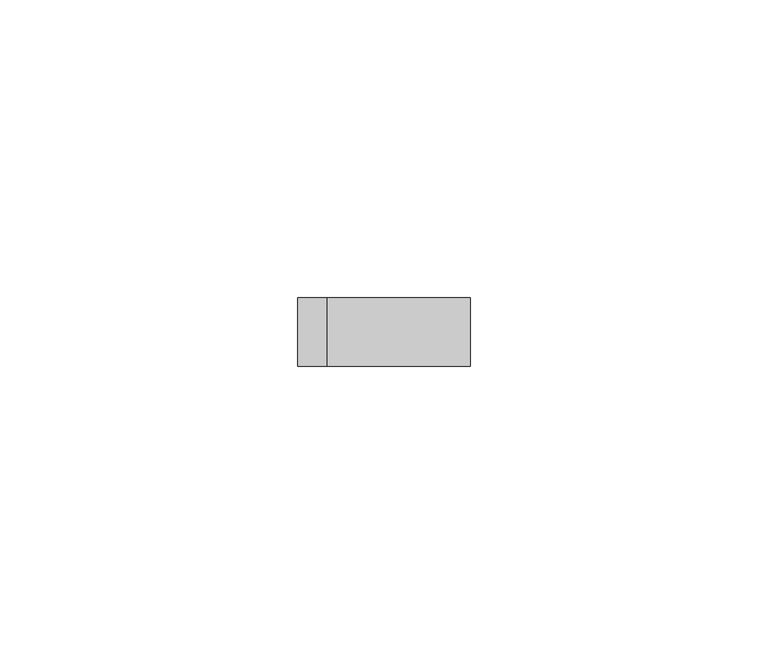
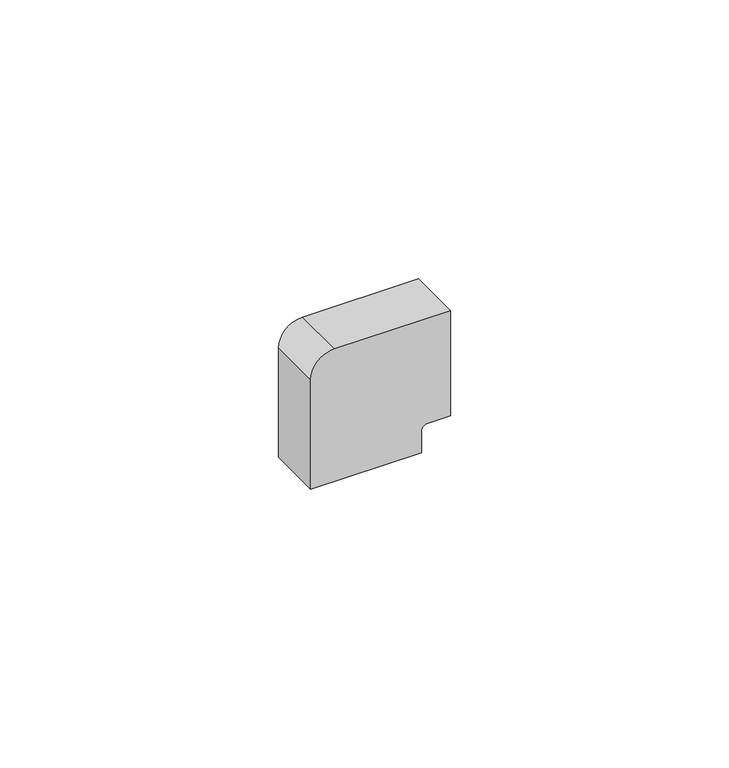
"""IFC4 building model written with IfcOpenShell, lengths in millimetres: proxy geometry, Поворот_на_90_гр.КМП : Поворот на 90 гр. КМП 20x10."""

import ifcopenshell
import ifcopenshell.guid

model = None  # the IFC model being written
_history = None  # IfcOwnerHistory: only IFC2X3 demands one
_inside = {}  # id of a spatial element -> (the spatial element, [elements in it])
_under = {}  # id of a project, library or spatial element -> (it, [spatial elements below it])
_declared = {}  # id of a project -> (the project, [libraries it declares])
_typed = {}  # id of a type object -> (the type object, [elements of that type])
_made_of = {}  # id of a material, layer set ... -> (it, [elements and type objects made of it])


def new_model(schema):
    """Start an empty IFC model of exactly this schema.

    Asked for "IFC4X3", IfcOpenShell would pick the latest addendum, in which some entities
    have other attributes; the version numbers below select the first issue.
    IFC2X3 requires an IfcOwnerHistory on every rooted entity: one is made here for all.
    """
    global model, _history
    if schema == "IFC4X3":
        model = ifcopenshell.file(schema_version=(4, 3, 0, 0))
    else:
        model = ifcopenshell.file(schema=schema)
    _inside.clear()
    _under.clear()
    _declared.clear()
    _typed.clear()
    _made_of.clear()
    _history = None
    if model.schema == "IFC2X3":
        org = make("IfcOrganization", Name="unknown")
        user = make(
            "IfcPersonAndOrganization",
            ThePerson=make("IfcPerson", FamilyName="unknown"),
            TheOrganization=org,
        )
        app = make(
            "IfcApplication",
            ApplicationDeveloper=org,
            Version="unknown",
            ApplicationFullName="unknown",
            ApplicationIdentifier="unknown",
        )
        _history = make(
            "IfcOwnerHistory",
            OwningUser=user,
            OwningApplication=app,
            ChangeAction="ADDED",
            CreationDate=0,
        )
    return model


def make(cls, **values):
    """One entity of the class cls with the attributes given. An attribute that is None is left unset."""
    return model.create_entity(
        cls, **{name: value for name, value in values.items() if value is not None}
    )


def rooted(cls, **values):
    """An entity with a GlobalId (a new one), such as an element, a storey or a relation."""
    return make(cls, GlobalId=ifcopenshell.guid.new(), OwnerHistory=_history, **values)


def si_unit(unit_type, name, prefix=None):
    """IfcSIUnit, for example si_unit("LENGTHUNIT", "METRE", prefix="MILLI")."""
    return make("IfcSIUnit", UnitType=unit_type, Prefix=prefix, Name=name)


def assignment(units):
    """IfcUnitAssignment: the units of a project."""
    return None if units is None else make("IfcUnitAssignment", Units=units)


def point(xyz):
    """IfcCartesianPoint."""
    return None if xyz is None else make("IfcCartesianPoint", Coordinates=xyz)


def direction(xyz):
    """IfcDirection."""
    return None if xyz is None else make("IfcDirection", DirectionRatios=xyz)


def frame(location, z_axis=None, x_axis=None):
    """IfcAxis2Placement3D, a coordinate frame: its origin and axes. An axis left out is left unset."""
    return make(
        "IfcAxis2Placement3D",
        Location=point(location),
        Axis=direction(z_axis),
        RefDirection=direction(x_axis),
    )


def frame_2d(location, x_axis=None):
    """IfcAxis2Placement2D, a coordinate frame in the plane: its origin and x axis."""
    return make(
        "IfcAxis2Placement2D", Location=point(location), RefDirection=direction(x_axis)
    )


def origin():
    """The frame at (0, 0, 0) with its axes left unset."""
    return frame((0.0, 0.0, 0.0))


def place(relative_to, where):
    """IfcLocalPlacement: puts the frame where relative to a parent placement (None: the world)."""
    return make(
        "IfcLocalPlacement", PlacementRelTo=relative_to, RelativePlacement=where
    )


def context(
    kind, dimensions, precision=None, world=None, true_north=None, identifier=None
):
    """IfcGeometricRepresentationContext, for example the 3D "Model" context."""
    return make(
        "IfcGeometricRepresentationContext",
        ContextIdentifier=identifier,
        ContextType=kind,
        CoordinateSpaceDimension=dimensions,
        Precision=precision,
        WorldCoordinateSystem=world,
        TrueNorth=true_north,
    )


def project(units=None, contexts=None):
    """IfcProject with its units and contexts."""
    return rooted(
        "IfcProject",
        Name="project",
        RepresentationContexts=contexts,
        UnitsInContext=assignment(units),
    )


def spatial(cls, under=None, at=None, **own):
    """A site, building, storey or space (cls), placed at a placement, below another one or the project."""
    s = rooted(cls, ObjectPlacement=at, **own)
    if under is not None:
        _under.setdefault(under.id(), (under, []))[1].append(s)
    return s


def polyline(points):
    """IfcPolyline through the points."""
    return make("IfcPolyline", Points=[point(p) for p in points])


def circle_curve(where, radius):
    """IfcCircle in the frame where."""
    return make("IfcCircle", Position=where, Radius=radius)


def trimmed(basis, trim1, trim2, sense, master):
    """IfcTrimmedCurve: the piece of a basis curve between two trims."""
    return make(
        "IfcTrimmedCurve",
        BasisCurve=basis,
        Trim1=trim1,
        Trim2=trim2,
        SenseAgreement=sense,
        MasterRepresentation=master,
    )


def segment(curve, same_sense, transition):
    """IfcCompositeCurveSegment."""
    return make(
        "IfcCompositeCurveSegment",
        Transition=transition,
        SameSense=same_sense,
        ParentCurve=curve,
    )


def composite_curve(segments, self_intersect=None):
    """IfcCompositeCurve: segments joined end to end."""
    return make("IfcCompositeCurve", Segments=segments, SelfIntersect=self_intersect)


def outline(outer, holes=None, kind="AREA"):
    """IfcArbitraryClosedProfileDef: a profile drawn as a closed curve; with holes, ...WithVoids."""
    if holes is None:
        return make("IfcArbitraryClosedProfileDef", ProfileType=kind, OuterCurve=outer)
    return make(
        "IfcArbitraryProfileDefWithVoids",
        ProfileType=kind,
        OuterCurve=outer,
        InnerCurves=holes,
    )


def extrude(swept, where, along, depth):
    """IfcExtrudedAreaSolid: the profile swept, set in the frame where, extruded along a direction by depth."""
    return make(
        "IfcExtrudedAreaSolid",
        SweptArea=swept,
        Position=where,
        ExtrudedDirection=direction(along),
        Depth=depth,
    )


def shape(context_of_items, identifier, shape_type, items):
    """IfcShapeRepresentation: the items that make up one representation, for example the "Body"."""
    return make(
        "IfcShapeRepresentation",
        ContextOfItems=context_of_items,
        RepresentationIdentifier=identifier,
        RepresentationType=shape_type,
        Items=items,
    )


def source(mapping_origin, context_of_items, identifier, shape_type, items):
    """IfcRepresentationMap: a shape defined once, which mapped items show again and again."""
    return make(
        "IfcRepresentationMap",
        MappingOrigin=mapping_origin,
        MappedRepresentation=shape(context_of_items, identifier, shape_type, items),
    )


def transform(
    local_origin,
    x_axis=None,
    y_axis=None,
    z_axis=None,
    scale=None,
    scale2=None,
    scale3=None,
    uniform=True,
):
    """IfcCartesianTransformationOperator3D, or its non-uniform kind. x_axis, y_axis, z_axis: its Axis1, 2, 3."""
    if uniform:
        return make(
            "IfcCartesianTransformationOperator3D",
            Axis1=direction(x_axis),
            Axis2=direction(y_axis),
            LocalOrigin=point(local_origin),
            Scale=scale,
            Axis3=direction(z_axis),
        )
    return make(
        "IfcCartesianTransformationOperator3DnonUniform",
        Axis1=direction(x_axis),
        Axis2=direction(y_axis),
        LocalOrigin=point(local_origin),
        Scale=scale,
        Axis3=direction(z_axis),
        Scale2=scale2,
        Scale3=scale3,
    )


def mapped(mapping_source, mapping_target):
    """IfcMappedItem: shows the shape of a source again, moved by a transform."""
    return make(
        "IfcMappedItem", MappingSource=mapping_source, MappingTarget=mapping_target
    )


def made_of(thing, what):
    """Note that an element or type object is made of a material, layer set ...; save() writes the relation."""
    if what is not None:
        _made_of.setdefault(what.id(), (what, []))[1].append(thing)
    return thing


def element(
    cls,
    number,
    at=None,
    inside=None,
    cuts=None,
    type_object=None,
    material=None,
    context=None,
    identifier="Body",
    shape_type=None,
    held_by="IfcProductDefinitionShape",
    body=None,
    shapes=None,
    **own,
):
    """One element of the class cls, such as IfcWall. Its Tag is "e" and its number.

    at: its placement. inside: the storey or other place that contains it. cuts: it is an
    opening in that element (IfcRelVoidsElement). A single representation is given by context,
    identifier, shape_type and body (its items); several are given by shapes. held_by: the class
    of the entity that holds the representations. save() writes the other relations.
    """
    e = rooted(cls, Tag="e%d" % number, ObjectPlacement=at, **own)
    if body is not None:
        shapes = [shape(context, identifier, shape_type, body)]
    if shapes is not None:
        e.Representation = make(held_by, Representations=shapes)
    if inside is not None:
        _inside.setdefault(inside.id(), (inside, []))[1].append(e)
    if cuts is not None:
        rooted(
            "IfcRelVoidsElement", RelatingBuildingElement=cuts, RelatedOpeningElement=e
        )
    if type_object is not None:
        _typed.setdefault(type_object.id(), (type_object, []))[1].append(e)
    return made_of(e, material)


def aggregate(whole, parts):
    """IfcRelAggregates: a whole, such as a stair, and the parts it consists of."""
    return rooted("IfcRelAggregates", RelatingObject=whole, RelatedObjects=parts)


def save(model, path):
    """Write the relations noted so far, then the file.

    IfcRelAggregates (storeys below a building ...), IfcRelContainedInSpatialStructure (elements
    in a storey), IfcRelDefinesByType, IfcRelAssociatesMaterial and IfcRelDeclares: one each for
    every whole, place, type object, material and project.
    """
    for whole, parts in _under.values():
        aggregate(whole, parts)
    for where, things in _inside.values():
        rooted(
            "IfcRelContainedInSpatialStructure",
            RelatedElements=things,
            RelatingStructure=where,
        )
    for kind, things in _typed.values():
        rooted("IfcRelDefinesByType", RelatedObjects=things, RelatingType=kind)
    for what, things in _made_of.values():
        rooted("IfcRelAssociatesMaterial", RelatedObjects=things, RelatingMaterial=what)
    for by, libraries in _declared.values():
        rooted("IfcRelDeclares", RelatingContext=by, RelatedDefinitions=libraries)
    model.write(path)


def generic_models_d6990168(model_context):
    return source(origin(), model_context, "Body", "SweptSolid", [
        extrude(outline(composite_curve([segment(polyline([(2.0580612, -6.0), (6.7438905, -6.0)]), True, "CONTINUOUS"), segment(trimmed(circle_curve(frame_2d((6.7438905, -4.6858293)), 1.3141707), [point((6.7438905, -6.0))], [point((8.0580612, -4.6858293))], True, "CARTESIAN"), True, "CONTINUOUS"), segment(polyline([(8.0580612, -4.6858293), (8.0580612, 0.0), (31.0580612, 0.0), (31.0580612, -23.9954444)]), True, "CONTINUOUS"), segment(trimmed(circle_curve(frame_2d((26.0535056, -23.9954444)), 5.0045556), [point((31.0580612, -23.9954444))], [point((26.0535056, -29.0))], False, "CARTESIAN"), True, "CONTINUOUS"), segment(polyline([(26.0535056, -29.0), (2.0580612, -29.0), (2.0580612, -6.0)]), True, "CONTINUOUS")], self_intersect=False)), frame((0.0, -11.5, 0.0), z_axis=(0.0, 1.0, 0.0), x_axis=(0.0, 0.0, 1.0)), (0.0, 0.0, 1.0), 11.5),
    ])


if __name__ == "__main__":
    model = new_model("IFC4")
    model_context = context("Model", 3, world=origin())
    ifc_project = project(units=[si_unit("LENGTHUNIT", "METRE", prefix="MILLI")], contexts=[model_context])
    site = spatial("IfcSite", under=ifc_project)
    building = spatial("IfcBuilding", under=site)
    placement = place(None, origin())
    generic_models_shape = generic_models_d6990168(model_context)
    element("IfcBuildingElementProxy", 1, Name="Поворот_на_90_гр.КМП : Поворот на 90 гр. КМП 20x10", ObjectType="Поворот_на_90_гр.КМП : Поворот на 90 гр. КМП 20x10", at=placement, inside=building, context=model_context, shape_type="MappedRepresentation", body=[
        mapped(generic_models_shape, transform((0.0, 0.0, 0.0), x_axis=(1.0, 0.0, 0.0), y_axis=(0.0, 1.0, 0.0), z_axis=(0.0, 0.0, 1.0))),
    ])
    save(model, "model.ifc")
